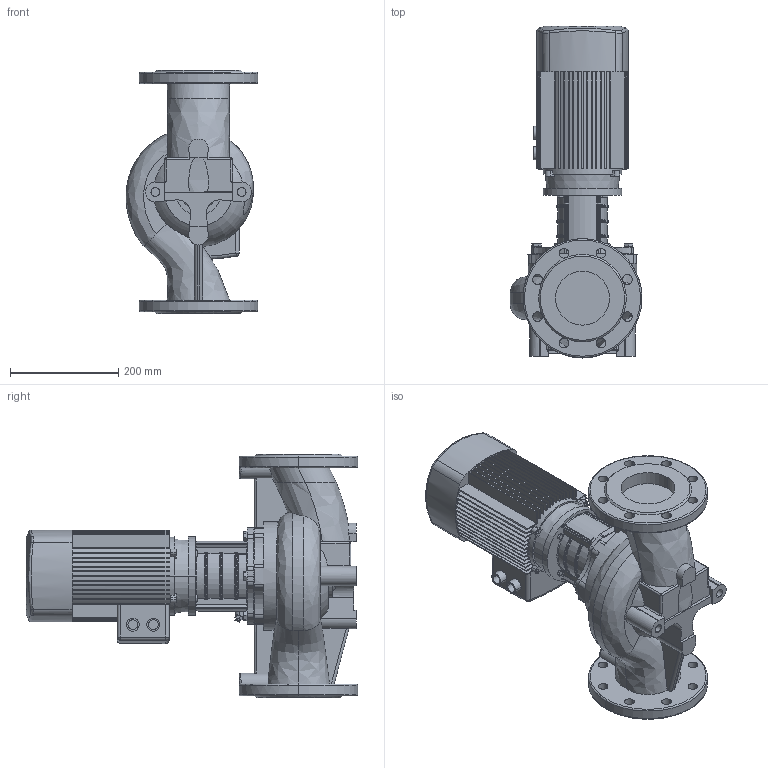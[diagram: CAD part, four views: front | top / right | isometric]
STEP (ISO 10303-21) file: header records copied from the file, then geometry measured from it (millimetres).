
FILE_DESCRIPTION (( 'STEP AP203' ), '1' );
FILE_NAME ('TD100-9G／2.STEP', '2026-09-07T02:40:13', ( '' ), ( '' ), 'SwSTEP 2.0', 'SolidWorks 2020', '' );
FILE_SCHEMA (( 'CONFIG_CONTROL_DESIGN' ));
Products named in the file (1): TD100-9Gㄞ2
Bounding box: 244.05 x 614 x 450 mm (x, y, z)
Volume: 17209584.3 mm3; surface area: 1024476.9 mm2
Topology: 1 solids, 9 shells, 1177 faces, 3083 edges, 1900 vertices
Faces by surface type: plane 507, cylinder 353, torus 116, cone 111, sphere 50, bspline 40
Entity records: 46970 total; most frequent: CARTESIAN_POINT 18194, DIRECTION 6138, ORIENTED_EDGE 6078, EDGE_CURVE 3039, AXIS2_PLACEMENT_3D 2405, VERTEX_POINT 1892, VECTOR 1328, LINE 1328
